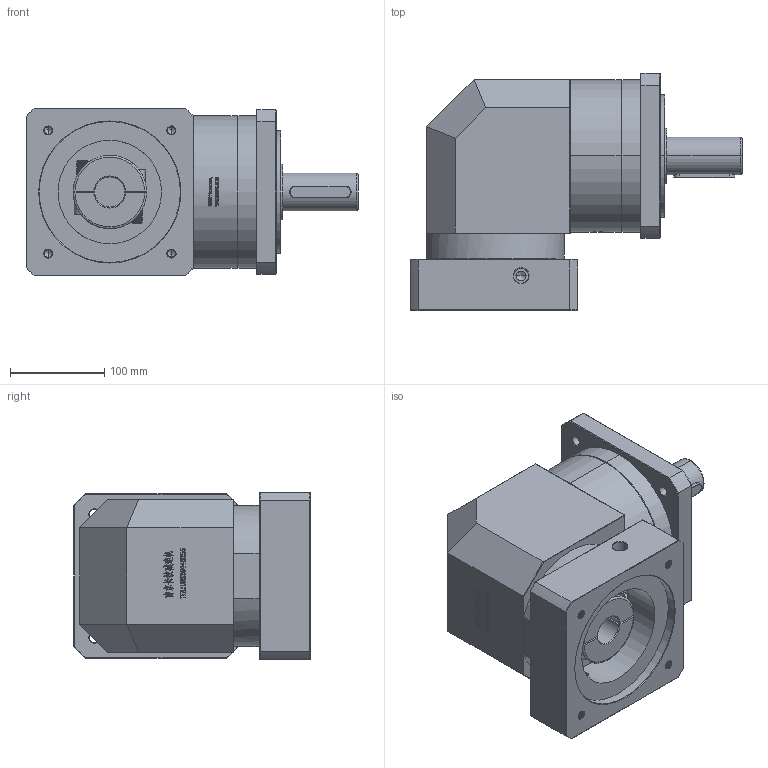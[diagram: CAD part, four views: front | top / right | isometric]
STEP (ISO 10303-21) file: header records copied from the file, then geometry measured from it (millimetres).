
FILE_DESCRIPTION (( 'STEP AP214' ), '1' );
FILE_NAME ('ZFR160A-D40-L1-32-150-185-M10.step', '2023-03-22T11:43:34', ( '' ), ( '' ), 'SwSTEP 2.0', 'SolidWorks 2016', '' );
FILE_SCHEMA (( 'AUTOMOTIVE_DESIGN' ));
Length unit declared in the file: millimetre
Products named in the file (1): ZFR160A-D40-L1-32-150-185-M10
Bounding box: 352.7 x 251.5 x 178 mm (x, y, z)
Volume: 7149625 mm3; surface area: 470292.8 mm2
Topology: 6 solids, 6 shells, 2514 faces, 6604 edges, 4244 vertices
Faces by surface type: plane 1273, bspline 501, cylinder 411, cone 307, torus 22
Entity records: 143564 total; most frequent: CARTESIAN_POINT 58339, ORIENTED_EDGE 13148, DIRECTION 9980, EDGE_CURVE 6574, VERTEX_POINT 4244, VECTOR 4148, LINE 4148, AXIS2_PLACEMENT_3D 2916
